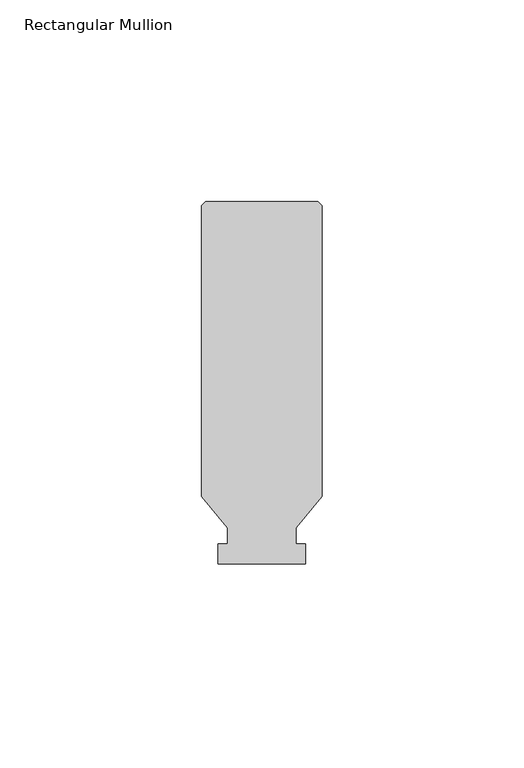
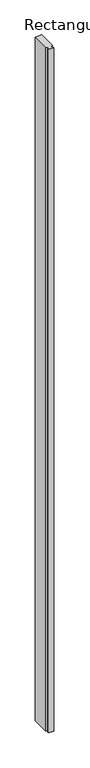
"""IFC4 building model written with IfcOpenShell, lengths in millimetres: member geometry, Rectangular Mullion : Batten_Timber_Modinex_Austratus_Linear_Fin_30x90_AlaskanYellowCedar."""

import ifcopenshell
import ifcopenshell.guid

model = None  # the IFC model being written
_history = None  # IfcOwnerHistory: only IFC2X3 demands one
_inside = {}  # id of a spatial element -> (the spatial element, [elements in it])
_under = {}  # id of a project, library or spatial element -> (it, [spatial elements below it])
_declared = {}  # id of a project -> (the project, [libraries it declares])
_typed = {}  # id of a type object -> (the type object, [elements of that type])
_made_of = {}  # id of a material, layer set ... -> (it, [elements and type objects made of it])


def new_model(schema):
    """Start an empty IFC model of exactly this schema.

    Asked for "IFC4X3", IfcOpenShell would pick the latest addendum, in which some entities
    have other attributes; the version numbers below select the first issue.
    IFC2X3 requires an IfcOwnerHistory on every rooted entity: one is made here for all.
    """
    global model, _history
    if schema == "IFC4X3":
        model = ifcopenshell.file(schema_version=(4, 3, 0, 0))
    else:
        model = ifcopenshell.file(schema=schema)
    _inside.clear()
    _under.clear()
    _declared.clear()
    _typed.clear()
    _made_of.clear()
    _history = None
    if model.schema == "IFC2X3":
        org = make("IfcOrganization", Name="unknown")
        user = make(
            "IfcPersonAndOrganization",
            ThePerson=make("IfcPerson", FamilyName="unknown"),
            TheOrganization=org,
        )
        app = make(
            "IfcApplication",
            ApplicationDeveloper=org,
            Version="unknown",
            ApplicationFullName="unknown",
            ApplicationIdentifier="unknown",
        )
        _history = make(
            "IfcOwnerHistory",
            OwningUser=user,
            OwningApplication=app,
            ChangeAction="ADDED",
            CreationDate=0,
        )
    return model


def make(cls, **values):
    """One entity of the class cls with the attributes given. An attribute that is None is left unset."""
    return model.create_entity(
        cls, **{name: value for name, value in values.items() if value is not None}
    )


def rooted(cls, **values):
    """An entity with a GlobalId (a new one), such as an element, a storey or a relation."""
    return make(cls, GlobalId=ifcopenshell.guid.new(), OwnerHistory=_history, **values)


def si_unit(unit_type, name, prefix=None):
    """IfcSIUnit, for example si_unit("LENGTHUNIT", "METRE", prefix="MILLI")."""
    return make("IfcSIUnit", UnitType=unit_type, Prefix=prefix, Name=name)


def assignment(units):
    """IfcUnitAssignment: the units of a project."""
    return None if units is None else make("IfcUnitAssignment", Units=units)


def point(xyz):
    """IfcCartesianPoint."""
    return None if xyz is None else make("IfcCartesianPoint", Coordinates=xyz)


def direction(xyz):
    """IfcDirection."""
    return None if xyz is None else make("IfcDirection", DirectionRatios=xyz)


def frame(location, z_axis=None, x_axis=None):
    """IfcAxis2Placement3D, a coordinate frame: its origin and axes. An axis left out is left unset."""
    return make(
        "IfcAxis2Placement3D",
        Location=point(location),
        Axis=direction(z_axis),
        RefDirection=direction(x_axis),
    )


def origin():
    """The frame at (0, 0, 0) with its axes left unset."""
    return frame((0.0, 0.0, 0.0))


def place(relative_to, where):
    """IfcLocalPlacement: puts the frame where relative to a parent placement (None: the world)."""
    return make(
        "IfcLocalPlacement", PlacementRelTo=relative_to, RelativePlacement=where
    )


def context(
    kind, dimensions, precision=None, world=None, true_north=None, identifier=None
):
    """IfcGeometricRepresentationContext, for example the 3D "Model" context."""
    return make(
        "IfcGeometricRepresentationContext",
        ContextIdentifier=identifier,
        ContextType=kind,
        CoordinateSpaceDimension=dimensions,
        Precision=precision,
        WorldCoordinateSystem=world,
        TrueNorth=true_north,
    )


def project(units=None, contexts=None):
    """IfcProject with its units and contexts."""
    return rooted(
        "IfcProject",
        Name="project",
        RepresentationContexts=contexts,
        UnitsInContext=assignment(units),
    )


def spatial(cls, under=None, at=None, **own):
    """A site, building, storey or space (cls), placed at a placement, below another one or the project."""
    s = rooted(cls, ObjectPlacement=at, **own)
    if under is not None:
        _under.setdefault(under.id(), (under, []))[1].append(s)
    return s


def polyline(points):
    """IfcPolyline through the points."""
    return make("IfcPolyline", Points=[point(p) for p in points])


def outline(outer, holes=None, kind="AREA"):
    """IfcArbitraryClosedProfileDef: a profile drawn as a closed curve; with holes, ...WithVoids."""
    if holes is None:
        return make("IfcArbitraryClosedProfileDef", ProfileType=kind, OuterCurve=outer)
    return make(
        "IfcArbitraryProfileDefWithVoids",
        ProfileType=kind,
        OuterCurve=outer,
        InnerCurves=holes,
    )


def extrude(swept, where, along, depth):
    """IfcExtrudedAreaSolid: the profile swept, set in the frame where, extruded along a direction by depth."""
    return make(
        "IfcExtrudedAreaSolid",
        SweptArea=swept,
        Position=where,
        ExtrudedDirection=direction(along),
        Depth=depth,
    )


def shape(context_of_items, identifier, shape_type, items):
    """IfcShapeRepresentation: the items that make up one representation, for example the "Body"."""
    return make(
        "IfcShapeRepresentation",
        ContextOfItems=context_of_items,
        RepresentationIdentifier=identifier,
        RepresentationType=shape_type,
        Items=items,
    )


def source(mapping_origin, context_of_items, identifier, shape_type, items):
    """IfcRepresentationMap: a shape defined once, which mapped items show again and again."""
    return make(
        "IfcRepresentationMap",
        MappingOrigin=mapping_origin,
        MappedRepresentation=shape(context_of_items, identifier, shape_type, items),
    )


def transform(
    local_origin,
    x_axis=None,
    y_axis=None,
    z_axis=None,
    scale=None,
    scale2=None,
    scale3=None,
    uniform=True,
):
    """IfcCartesianTransformationOperator3D, or its non-uniform kind. x_axis, y_axis, z_axis: its Axis1, 2, 3."""
    if uniform:
        return make(
            "IfcCartesianTransformationOperator3D",
            Axis1=direction(x_axis),
            Axis2=direction(y_axis),
            LocalOrigin=point(local_origin),
            Scale=scale,
            Axis3=direction(z_axis),
        )
    return make(
        "IfcCartesianTransformationOperator3DnonUniform",
        Axis1=direction(x_axis),
        Axis2=direction(y_axis),
        LocalOrigin=point(local_origin),
        Scale=scale,
        Axis3=direction(z_axis),
        Scale2=scale2,
        Scale3=scale3,
    )


def mapped(mapping_source, mapping_target):
    """IfcMappedItem: shows the shape of a source again, moved by a transform."""
    return make(
        "IfcMappedItem", MappingSource=mapping_source, MappingTarget=mapping_target
    )


def made_of(thing, what):
    """Note that an element or type object is made of a material, layer set ...; save() writes the relation."""
    if what is not None:
        _made_of.setdefault(what.id(), (what, []))[1].append(thing)
    return thing


def element(
    cls,
    number,
    at=None,
    inside=None,
    cuts=None,
    type_object=None,
    material=None,
    context=None,
    identifier="Body",
    shape_type=None,
    held_by="IfcProductDefinitionShape",
    body=None,
    shapes=None,
    **own,
):
    """One element of the class cls, such as IfcWall. Its Tag is "e" and its number.

    at: its placement. inside: the storey or other place that contains it. cuts: it is an
    opening in that element (IfcRelVoidsElement). A single representation is given by context,
    identifier, shape_type and body (its items); several are given by shapes. held_by: the class
    of the entity that holds the representations. save() writes the other relations.
    """
    e = rooted(cls, Tag="e%d" % number, ObjectPlacement=at, **own)
    if body is not None:
        shapes = [shape(context, identifier, shape_type, body)]
    if shapes is not None:
        e.Representation = make(held_by, Representations=shapes)
    if inside is not None:
        _inside.setdefault(inside.id(), (inside, []))[1].append(e)
    if cuts is not None:
        rooted(
            "IfcRelVoidsElement", RelatingBuildingElement=cuts, RelatedOpeningElement=e
        )
    if type_object is not None:
        _typed.setdefault(type_object.id(), (type_object, []))[1].append(e)
    return made_of(e, material)


def aggregate(whole, parts):
    """IfcRelAggregates: a whole, such as a stair, and the parts it consists of."""
    return rooted("IfcRelAggregates", RelatingObject=whole, RelatedObjects=parts)


def save(model, path):
    """Write the relations noted so far, then the file.

    IfcRelAggregates (storeys below a building ...), IfcRelContainedInSpatialStructure (elements
    in a storey), IfcRelDefinesByType, IfcRelAssociatesMaterial and IfcRelDeclares: one each for
    every whole, place, type object, material and project.
    """
    for whole, parts in _under.values():
        aggregate(whole, parts)
    for where, things in _inside.values():
        rooted(
            "IfcRelContainedInSpatialStructure",
            RelatedElements=things,
            RelatingStructure=where,
        )
    for kind, things in _typed.values():
        rooted("IfcRelDefinesByType", RelatedObjects=things, RelatingType=kind)
    for what, things in _made_of.values():
        rooted("IfcRelAssociatesMaterial", RelatedObjects=things, RelatingMaterial=what)
    for by, libraries in _declared.values():
        rooted("IfcRelDeclares", RelatingContext=by, RelatedDefinitions=libraries)
    model.write(path)


def rectangular_mullion_415ab65c(model_context):
    return source(origin(), model_context, "Body", "SweptSolid", [
        extrude(outline(polyline([(-15.0, 16.8079815), (-15.0, 89.0), (-14.0, 90.0), (14.0, 90.0), (15.0, 89.0), (15.0, 16.8079815), (8.5, 9.0), (8.5, 5.0), (10.812195, 5.0), (10.812195, 0.0), (-10.812195, 0.0), (-10.812195, 5.0), (-8.5, 5.0), (-8.5, 9.0), (-15.0, 16.8079815)])), frame((0.0, 0.0, -3000.0), z_axis=(0.0, 0.0, 1.0), x_axis=(1.0, 0.0, 0.0)), (0.0, 0.0, 1.0), 3000.0),
    ])


if __name__ == "__main__":
    model = new_model("IFC4")
    model_context = context("Model", 3, world=origin())
    ifc_project = project(units=[si_unit("LENGTHUNIT", "METRE", prefix="MILLI")], contexts=[model_context])
    site = spatial("IfcSite", under=ifc_project)
    building = spatial("IfcBuilding", under=site)
    placement = place(None, origin())
    rectangular_mullion_shape = rectangular_mullion_415ab65c(model_context)
    element("IfcMember", 1, ObjectType="Rectangular Mullion : Batten_Timber_Modinex_Austratus_Linear_Fin_30x90_AlaskanYellowCedar", at=placement, inside=building, context=model_context, shape_type="MappedRepresentation", body=[
        mapped(rectangular_mullion_shape, transform((0.0, 0.0, 0.0), x_axis=(1.0, 0.0, 0.0), y_axis=(0.0, 1.0, 0.0), z_axis=(0.0, 0.0, 1.0))),
    ])
    save(model, "model.ifc")
